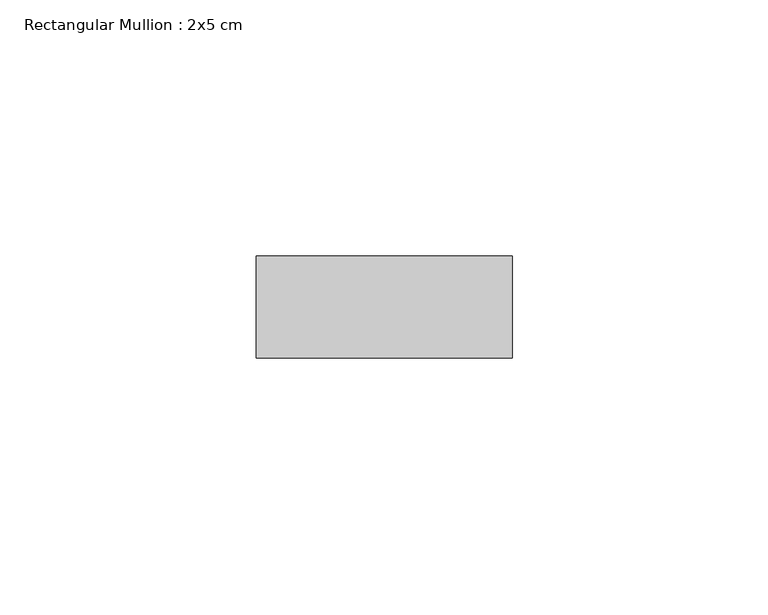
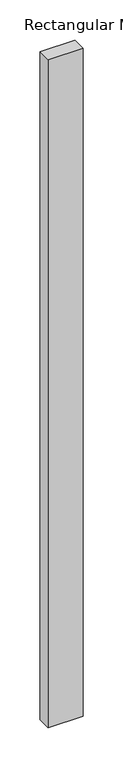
"""IFC4 building model written with IfcOpenShell, lengths in millimetres: member geometry, Rectangular Mullion : 2x5 cm."""

import ifcopenshell
import ifcopenshell.guid

model = None  # the IFC model being written
_history = None  # IfcOwnerHistory: only IFC2X3 demands one
_inside = {}  # id of a spatial element -> (the spatial element, [elements in it])
_under = {}  # id of a project, library or spatial element -> (it, [spatial elements below it])
_declared = {}  # id of a project -> (the project, [libraries it declares])
_typed = {}  # id of a type object -> (the type object, [elements of that type])
_made_of = {}  # id of a material, layer set ... -> (it, [elements and type objects made of it])


def new_model(schema):
    """Start an empty IFC model of exactly this schema.

    Asked for "IFC4X3", IfcOpenShell would pick the latest addendum, in which some entities
    have other attributes; the version numbers below select the first issue.
    IFC2X3 requires an IfcOwnerHistory on every rooted entity: one is made here for all.
    """
    global model, _history
    if schema == "IFC4X3":
        model = ifcopenshell.file(schema_version=(4, 3, 0, 0))
    else:
        model = ifcopenshell.file(schema=schema)
    _inside.clear()
    _under.clear()
    _declared.clear()
    _typed.clear()
    _made_of.clear()
    _history = None
    if model.schema == "IFC2X3":
        org = make("IfcOrganization", Name="unknown")
        user = make(
            "IfcPersonAndOrganization",
            ThePerson=make("IfcPerson", FamilyName="unknown"),
            TheOrganization=org,
        )
        app = make(
            "IfcApplication",
            ApplicationDeveloper=org,
            Version="unknown",
            ApplicationFullName="unknown",
            ApplicationIdentifier="unknown",
        )
        _history = make(
            "IfcOwnerHistory",
            OwningUser=user,
            OwningApplication=app,
            ChangeAction="ADDED",
            CreationDate=0,
        )
    return model


def make(cls, **values):
    """One entity of the class cls with the attributes given. An attribute that is None is left unset."""
    return model.create_entity(
        cls, **{name: value for name, value in values.items() if value is not None}
    )


def rooted(cls, **values):
    """An entity with a GlobalId (a new one), such as an element, a storey or a relation."""
    return make(cls, GlobalId=ifcopenshell.guid.new(), OwnerHistory=_history, **values)


def si_unit(unit_type, name, prefix=None):
    """IfcSIUnit, for example si_unit("LENGTHUNIT", "METRE", prefix="MILLI")."""
    return make("IfcSIUnit", UnitType=unit_type, Prefix=prefix, Name=name)


def assignment(units):
    """IfcUnitAssignment: the units of a project."""
    return None if units is None else make("IfcUnitAssignment", Units=units)


def point(xyz):
    """IfcCartesianPoint."""
    return None if xyz is None else make("IfcCartesianPoint", Coordinates=xyz)


def direction(xyz):
    """IfcDirection."""
    return None if xyz is None else make("IfcDirection", DirectionRatios=xyz)


def frame(location, z_axis=None, x_axis=None):
    """IfcAxis2Placement3D, a coordinate frame: its origin and axes. An axis left out is left unset."""
    return make(
        "IfcAxis2Placement3D",
        Location=point(location),
        Axis=direction(z_axis),
        RefDirection=direction(x_axis),
    )


def origin():
    """The frame at (0, 0, 0) with its axes left unset."""
    return frame((0.0, 0.0, 0.0))


def place(relative_to, where):
    """IfcLocalPlacement: puts the frame where relative to a parent placement (None: the world)."""
    return make(
        "IfcLocalPlacement", PlacementRelTo=relative_to, RelativePlacement=where
    )


def context(
    kind, dimensions, precision=None, world=None, true_north=None, identifier=None
):
    """IfcGeometricRepresentationContext, for example the 3D "Model" context."""
    return make(
        "IfcGeometricRepresentationContext",
        ContextIdentifier=identifier,
        ContextType=kind,
        CoordinateSpaceDimension=dimensions,
        Precision=precision,
        WorldCoordinateSystem=world,
        TrueNorth=true_north,
    )


def project(units=None, contexts=None):
    """IfcProject with its units and contexts."""
    return rooted(
        "IfcProject",
        Name="project",
        RepresentationContexts=contexts,
        UnitsInContext=assignment(units),
    )


def spatial(cls, under=None, at=None, **own):
    """A site, building, storey or space (cls), placed at a placement, below another one or the project."""
    s = rooted(cls, ObjectPlacement=at, **own)
    if under is not None:
        _under.setdefault(under.id(), (under, []))[1].append(s)
    return s


def polyline(points):
    """IfcPolyline through the points."""
    return make("IfcPolyline", Points=[point(p) for p in points])


def outline(outer, holes=None, kind="AREA"):
    """IfcArbitraryClosedProfileDef: a profile drawn as a closed curve; with holes, ...WithVoids."""
    if holes is None:
        return make("IfcArbitraryClosedProfileDef", ProfileType=kind, OuterCurve=outer)
    return make(
        "IfcArbitraryProfileDefWithVoids",
        ProfileType=kind,
        OuterCurve=outer,
        InnerCurves=holes,
    )


def extrude(swept, where, along, depth):
    """IfcExtrudedAreaSolid: the profile swept, set in the frame where, extruded along a direction by depth."""
    return make(
        "IfcExtrudedAreaSolid",
        SweptArea=swept,
        Position=where,
        ExtrudedDirection=direction(along),
        Depth=depth,
    )


def shape(context_of_items, identifier, shape_type, items):
    """IfcShapeRepresentation: the items that make up one representation, for example the "Body"."""
    return make(
        "IfcShapeRepresentation",
        ContextOfItems=context_of_items,
        RepresentationIdentifier=identifier,
        RepresentationType=shape_type,
        Items=items,
    )


def source(mapping_origin, context_of_items, identifier, shape_type, items):
    """IfcRepresentationMap: a shape defined once, which mapped items show again and again."""
    return make(
        "IfcRepresentationMap",
        MappingOrigin=mapping_origin,
        MappedRepresentation=shape(context_of_items, identifier, shape_type, items),
    )


def transform(
    local_origin,
    x_axis=None,
    y_axis=None,
    z_axis=None,
    scale=None,
    scale2=None,
    scale3=None,
    uniform=True,
):
    """IfcCartesianTransformationOperator3D, or its non-uniform kind. x_axis, y_axis, z_axis: its Axis1, 2, 3."""
    if uniform:
        return make(
            "IfcCartesianTransformationOperator3D",
            Axis1=direction(x_axis),
            Axis2=direction(y_axis),
            LocalOrigin=point(local_origin),
            Scale=scale,
            Axis3=direction(z_axis),
        )
    return make(
        "IfcCartesianTransformationOperator3DnonUniform",
        Axis1=direction(x_axis),
        Axis2=direction(y_axis),
        LocalOrigin=point(local_origin),
        Scale=scale,
        Axis3=direction(z_axis),
        Scale2=scale2,
        Scale3=scale3,
    )


def mapped(mapping_source, mapping_target):
    """IfcMappedItem: shows the shape of a source again, moved by a transform."""
    return make(
        "IfcMappedItem", MappingSource=mapping_source, MappingTarget=mapping_target
    )


def made_of(thing, what):
    """Note that an element or type object is made of a material, layer set ...; save() writes the relation."""
    if what is not None:
        _made_of.setdefault(what.id(), (what, []))[1].append(thing)
    return thing


def element(
    cls,
    number,
    at=None,
    inside=None,
    cuts=None,
    type_object=None,
    material=None,
    context=None,
    identifier="Body",
    shape_type=None,
    held_by="IfcProductDefinitionShape",
    body=None,
    shapes=None,
    **own,
):
    """One element of the class cls, such as IfcWall. Its Tag is "e" and its number.

    at: its placement. inside: the storey or other place that contains it. cuts: it is an
    opening in that element (IfcRelVoidsElement). A single representation is given by context,
    identifier, shape_type and body (its items); several are given by shapes. held_by: the class
    of the entity that holds the representations. save() writes the other relations.
    """
    e = rooted(cls, Tag="e%d" % number, ObjectPlacement=at, **own)
    if body is not None:
        shapes = [shape(context, identifier, shape_type, body)]
    if shapes is not None:
        e.Representation = make(held_by, Representations=shapes)
    if inside is not None:
        _inside.setdefault(inside.id(), (inside, []))[1].append(e)
    if cuts is not None:
        rooted(
            "IfcRelVoidsElement", RelatingBuildingElement=cuts, RelatedOpeningElement=e
        )
    if type_object is not None:
        _typed.setdefault(type_object.id(), (type_object, []))[1].append(e)
    return made_of(e, material)


def aggregate(whole, parts):
    """IfcRelAggregates: a whole, such as a stair, and the parts it consists of."""
    return rooted("IfcRelAggregates", RelatingObject=whole, RelatedObjects=parts)


def save(model, path):
    """Write the relations noted so far, then the file.

    IfcRelAggregates (storeys below a building ...), IfcRelContainedInSpatialStructure (elements
    in a storey), IfcRelDefinesByType, IfcRelAssociatesMaterial and IfcRelDeclares: one each for
    every whole, place, type object, material and project.
    """
    for whole, parts in _under.values():
        aggregate(whole, parts)
    for where, things in _inside.values():
        rooted(
            "IfcRelContainedInSpatialStructure",
            RelatedElements=things,
            RelatingStructure=where,
        )
    for kind, things in _typed.values():
        rooted("IfcRelDefinesByType", RelatedObjects=things, RelatingType=kind)
    for what, things in _made_of.values():
        rooted("IfcRelAssociatesMaterial", RelatedObjects=things, RelatingMaterial=what)
    for by, libraries in _declared.values():
        rooted("IfcRelDeclares", RelatingContext=by, RelatedDefinitions=libraries)
    model.write(path)


def rectangular_mullion_2x5_cm_cddb1e8a(model_context):
    return source(origin(), model_context, "Body", "SweptSolid", [
        extrude(outline(polyline([(50.0, 20.0), (50.0, 0.0), (0.0, 0.0), (0.0, 20.0), (50.0, 20.0)])), frame((0.0, 0.0, -1014.1647146), z_axis=(0.0, 0.0, 1.0), x_axis=(1.0, 0.0, 0.0)), (0.0, 0.0, 1.0), 1014.1647146),
    ])


if __name__ == "__main__":
    model = new_model("IFC4")
    model_context = context("Model", 3, world=origin())
    ifc_project = project(units=[si_unit("LENGTHUNIT", "METRE", prefix="MILLI")], contexts=[model_context])
    site = spatial("IfcSite", under=ifc_project)
    building = spatial("IfcBuilding", under=site)
    placement = place(None, origin())
    rectangular_mullion_2x5_cm_shape = rectangular_mullion_2x5_cm_cddb1e8a(model_context)
    element("IfcMember", 1, ObjectType="Rectangular Mullion : 2x5 cm", at=placement, inside=building, context=model_context, shape_type="MappedRepresentation", body=[
        mapped(rectangular_mullion_2x5_cm_shape, transform((0.0, 0.0, 0.0), x_axis=(1.0, 0.0, 0.0), y_axis=(0.0, 1.0, 0.0), z_axis=(0.0, 0.0, 1.0))),
    ])
    save(model, "model.ifc")
